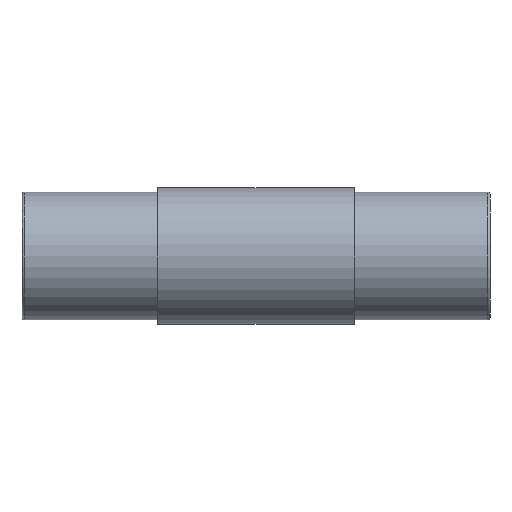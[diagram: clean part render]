
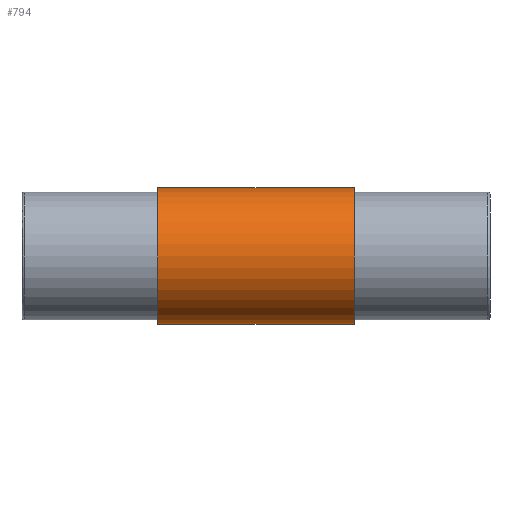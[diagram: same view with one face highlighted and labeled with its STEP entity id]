
A CAD part, front view. The second image highlights one B-rep face of the part: STEP entity #794.
In plain terms, the highlighted cylindrical face has radius 33.65 mm (diameter 67.3 mm), a partial arc.
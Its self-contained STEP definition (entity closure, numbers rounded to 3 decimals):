
#40 = VECTOR ( 'NONE', #1084, 1000. ) ;
#43 = AXIS2_PLACEMENT_3D ( 'NONE', #1337, #1333, #1340 ) ;
#275 = LINE ( 'NONE', #276, #1426 ) ;
#276 = CARTESIAN_POINT ( 'NONE',  ( 67., 0., -33.65 ) ) ;
#284 = DIRECTION ( 'NONE',  ( 1., 0., 0. ) ) ;
#286 = LINE ( 'NONE', #290, #1416 ) ;
#290 = CARTESIAN_POINT ( 'NONE',  ( 67., 0., 33.65 ) ) ;
#420 = ORIENTED_EDGE ( 'NONE', *, *, #1642, .T. ) ;
#421 = ORIENTED_EDGE ( 'NONE', *, *, #1238, .F. ) ;
#422 = ORIENTED_EDGE ( 'NONE', *, *, #1640, .F. ) ;
#457 = ORIENTED_EDGE ( 'NONE', *, *, #801, .F. ) ;
#458 = ORIENTED_EDGE ( 'NONE', *, *, #1237, .T. ) ;
#459 = ORIENTED_EDGE ( 'NONE', *, *, #1638, .T. ) ;
#475 = VERTEX_POINT ( 'NONE', #750 ) ;
#483 = VERTEX_POINT ( 'NONE', #759 ) ;
#488 = VERTEX_POINT ( 'NONE', #764 ) ;
#727 = EDGE_LOOP ( 'NONE', ( #457, #458, #459, #420, #421, #422 ) ) ;
#750 = CARTESIAN_POINT ( 'NONE',  ( 164., 0., 33.65 ) ) ;
#759 = CARTESIAN_POINT ( 'NONE',  ( 115.5, 0., -33.65 ) ) ;
#764 = CARTESIAN_POINT ( 'NONE',  ( 67., 0., 33.65 ) ) ;
#773 = CIRCLE ( 'NONE', #1063, 33.65 ) ;
#794 = ADVANCED_FACE ( 'NONE', ( #1336 ), #1339, .T. ) ;
#801 = EDGE_CURVE ( 'NONE', #488, #1258, #1080, .T. ) ;
#887 = CARTESIAN_POINT ( 'NONE',  ( 67., 0., 0. ) ) ;
#888 = DIRECTION ( 'NONE',  ( 1., 0., 0. ) ) ;
#889 = DIRECTION ( 'NONE',  ( 0., 0., -1. ) ) ;
#891 = CARTESIAN_POINT ( 'NONE',  ( 164., 0., 0. ) ) ;
#892 = DIRECTION ( 'NONE',  ( 1., 0., 0. ) ) ;
#893 = DIRECTION ( 'NONE',  ( 0., 0., -1. ) ) ;
#1063 = AXIS2_PLACEMENT_3D ( 'NONE', #887, #888, #889 ) ;
#1079 = CARTESIAN_POINT ( 'NONE',  ( 67., 0., 33.65 ) ) ;
#1080 = LINE ( 'NONE', #1079, #40 ) ;
#1084 = DIRECTION ( 'NONE',  ( 1., 0., 0. ) ) ;
#1237 = EDGE_CURVE ( 'NONE', #488, #1276, #773, .T. ) ;
#1238 = EDGE_CURVE ( 'NONE', #475, #1262, #1651, .T. ) ;
#1258 = VERTEX_POINT ( 'NONE', #1672 ) ;
#1262 = VERTEX_POINT ( 'NONE', #1674 ) ;
#1276 = VERTEX_POINT ( 'NONE', #1688 ) ;
#1333 = DIRECTION ( 'NONE',  ( 1., 0., 0. ) ) ;
#1336 = FACE_OUTER_BOUND ( 'NONE', #727, .T. ) ;
#1337 = CARTESIAN_POINT ( 'NONE',  ( 67., 0., 0. ) ) ;
#1339 = CYLINDRICAL_SURFACE ( 'NONE', #43, 33.65 ) ;
#1340 = DIRECTION ( 'NONE',  ( 0., 0., -1. ) ) ;
#1416 = VECTOR ( 'NONE', #1491, 1000. ) ;
#1426 = VECTOR ( 'NONE', #284, 1000. ) ;
#1429 = VECTOR ( 'NONE', #1496, 1000. ) ;
#1490 = LINE ( 'NONE', #1495, #1429 ) ;
#1491 = DIRECTION ( 'NONE',  ( 1., 0., 0. ) ) ;
#1495 = CARTESIAN_POINT ( 'NONE',  ( 67., 0., -33.65 ) ) ;
#1496 = DIRECTION ( 'NONE',  ( 1., 0., 0. ) ) ;
#1638 = EDGE_CURVE ( 'NONE', #1276, #483, #275, .T. ) ;
#1640 = EDGE_CURVE ( 'NONE', #1258, #475, #286, .T. ) ;
#1642 = EDGE_CURVE ( 'NONE', #483, #1262, #1490, .T. ) ;
#1651 = CIRCLE ( 'NONE', #1656, 33.65 ) ;
#1656 = AXIS2_PLACEMENT_3D ( 'NONE', #891, #892, #893 ) ;
#1672 = CARTESIAN_POINT ( 'NONE',  ( 115.5, 0., 33.65 ) ) ;
#1674 = CARTESIAN_POINT ( 'NONE',  ( 164., 0., -33.65 ) ) ;
#1688 = CARTESIAN_POINT ( 'NONE',  ( 67., 0., -33.65 ) ) ;
